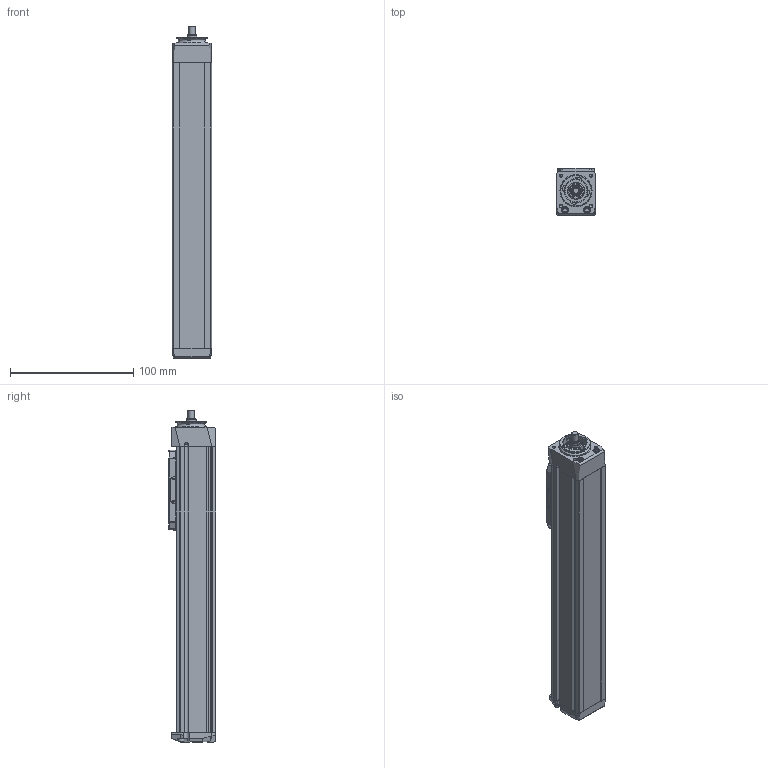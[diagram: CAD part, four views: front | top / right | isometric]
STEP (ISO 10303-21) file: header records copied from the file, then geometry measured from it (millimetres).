
FILE_DESCRIPTION(/* description */ ('STEP AP214'),/* implementation_level */ '2;1');
FILE_NAME(/* name */ 'MGBS 32 0802 150(0)',/* time_stamp */ '2023-04-12T10:40:43+02:00',/* author */ ('License CC BY-ND 4.0'),/* organization */ ('CADENAS'),/* preprocessor_version */ 'ST-DEVELOPER v19.3',/* originating_system */ 'PARTsolutions',/* authorisation */ ' ');
FILE_SCHEMA (('AUTOMOTIVE_DESIGN {1 0 10303 214 3 1 1}'));
Length unit declared in the file: millimetre
Products named in the file (6): MGBS 32 0802 150(0); MGBS 32 150_protection_strip; MGBS 32_carriage; MGBS 32_end_block; MGBS 32 150_profile; MGBS 32_drive_block
Assembly tree (5 placements, depth 2):
  MGBS 32 0802 150(0)
    MGBS 32 150_protection_strip
    MGBS 32_carriage
    MGBS 32_end_block
    MGBS 32 150_profile
    MGBS 32_drive_block
Bounding box: 32 x 38.5 x 269.5 mm (x, y, z)
Volume: 253078.1 mm3; surface area: 67860.1 mm2
Topology: 5 solids, 5 shells, 638 faces, 1686 edges, 1092 vertices
Faces by surface type: plane 301, cylinder 160, cone 94, bspline 56, torus 25, sphere 2
Full cylindrical faces by diameter (mm): 0.3 x1, 1.567 x4, 1.755 x4, 1.8 x2, 2 x2, 2.3 x4, 2.459 x8, 2.46 x4, 2.5 x11, 3 x1, 3.8 x4, 4.5 x6, 5 x5, 7.5 x1, 8 x1, 10 x1, 13.84 x1, 14.2 x1, 17.8 x1, 18.16 x1, 19.5 x1, 25 x2, 25.7 x1
Entity records: 23436 total; most frequent: CARTESIAN_POINT 4050, DIRECTION 3216, ORIENTED_EDGE 2990, EDGE_CURVE 1495, AXIS2_PLACEMENT_3D 1173, VERTEX_POINT 1077, LINE 870, VECTOR 870
